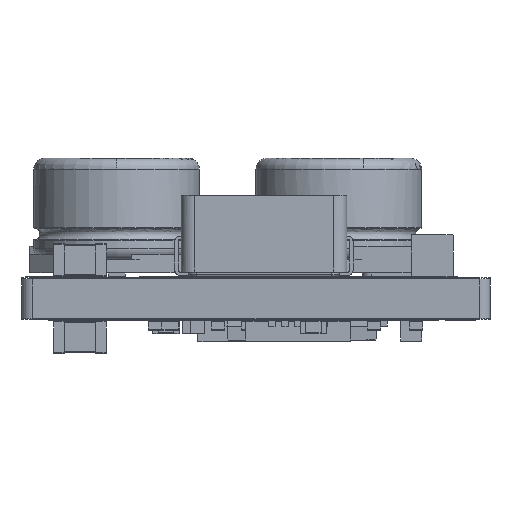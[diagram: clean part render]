
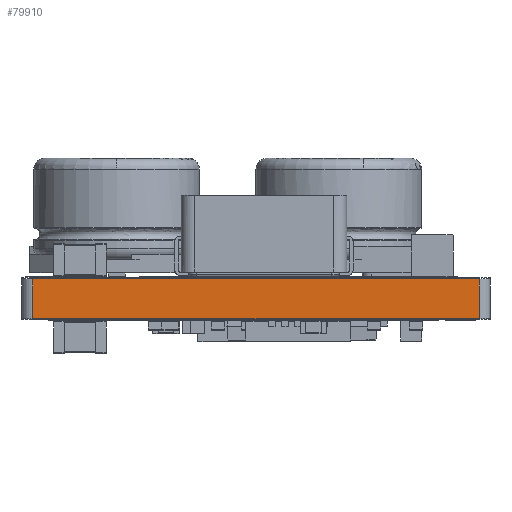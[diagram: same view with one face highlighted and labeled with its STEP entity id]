
A CAD part, left-side view. The second image highlights one B-rep face of the part: STEP entity #79910.
In plain terms, the highlighted planar face has unit normal (-1, 0, 0).
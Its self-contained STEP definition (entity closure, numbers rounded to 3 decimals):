
#79603 = VERTEX_POINT('',#79604);
#79604 = CARTESIAN_POINT('',(160.,-82.4,0.));
#79611 = EDGE_CURVE('',#79612,#79603,#79614,.T.);
#79612 = VERTEX_POINT('',#79613);
#79613 = CARTESIAN_POINT('',(160.,-99.4,0.));
#79614 = LINE('',#79615,#79616);
#79615 = CARTESIAN_POINT('',(160.,-99.4,0.));
#79616 = VECTOR('',#79617,1.);
#79617 = DIRECTION('',(0.,1.,0.));
#79743 = VERTEX_POINT('',#79744);
#79744 = CARTESIAN_POINT('',(160.,-82.4,1.51));
#79751 = EDGE_CURVE('',#79752,#79743,#79754,.T.);
#79752 = VERTEX_POINT('',#79753);
#79753 = CARTESIAN_POINT('',(160.,-99.4,1.51));
#79754 = LINE('',#79755,#79756);
#79755 = CARTESIAN_POINT('',(160.,-99.4,1.51));
#79756 = VECTOR('',#79757,1.);
#79757 = DIRECTION('',(0.,1.,0.));
#79880 = EDGE_CURVE('',#79603,#79743,#79881,.T.);
#79881 = LINE('',#79882,#79883);
#79882 = CARTESIAN_POINT('',(160.,-82.4,0.));
#79883 = VECTOR('',#79884,1.);
#79884 = DIRECTION('',(0.,0.,1.));
#79910 = ADVANCED_FACE('',(#79911),#79922,.T.);
#79911 = FACE_BOUND('',#79912,.T.);
#79912 = EDGE_LOOP('',(#79913,#79919,#79920,#79921));
#79913 = ORIENTED_EDGE('',*,*,#79914,.T.);
#79914 = EDGE_CURVE('',#79612,#79752,#79915,.T.);
#79915 = LINE('',#79916,#79917);
#79916 = CARTESIAN_POINT('',(160.,-99.4,0.));
#79917 = VECTOR('',#79918,1.);
#79918 = DIRECTION('',(0.,0.,1.));
#79919 = ORIENTED_EDGE('',*,*,#79751,.T.);
#79920 = ORIENTED_EDGE('',*,*,#79880,.F.);
#79921 = ORIENTED_EDGE('',*,*,#79611,.F.);
#79922 = PLANE('',#79923);
#79923 = AXIS2_PLACEMENT_3D('',#79924,#79925,#79926);
#79924 = CARTESIAN_POINT('',(160.,-99.4,0.));
#79925 = DIRECTION('',(-1.,0.,0.));
#79926 = DIRECTION('',(0.,1.,0.));
